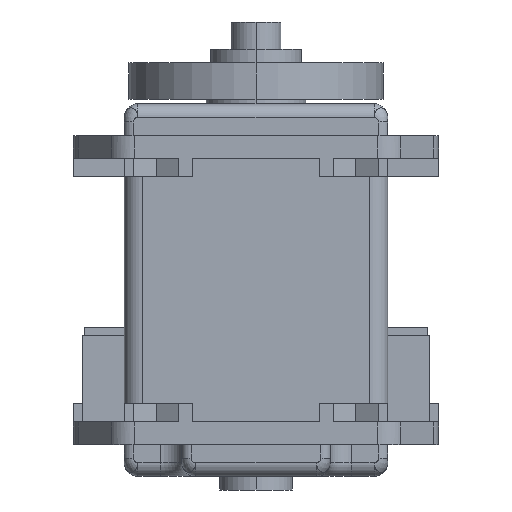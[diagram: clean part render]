
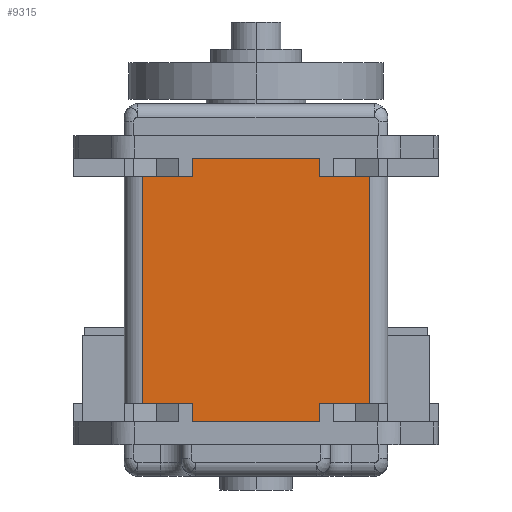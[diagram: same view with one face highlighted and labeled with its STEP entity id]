
A CAD part, front view. The second image highlights one B-rep face of the part: STEP entity #9315.
In plain terms, the highlighted planar face has unit normal (0, -1, 0).
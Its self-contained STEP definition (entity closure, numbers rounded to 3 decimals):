
#2409=DIRECTION('',(1.,0.,0.));
#2410=VECTOR('',#2409,1.4);
#2411=CARTESIAN_POINT('',(11.1,-42.5,-12.5));
#2412=LINE('',#2411,#2410);
#2416=DIRECTION('',(1.,0.,0.));
#2417=VECTOR('',#2416,0.201);
#2418=CARTESIAN_POINT('',(10.9,-42.5,-12.5));
#2419=LINE('',#2418,#2417);
#2423=DIRECTION('',(1.,0.,0.));
#2424=VECTOR('',#2423,3.875);
#2425=CARTESIAN_POINT('',(7.025,-42.5,-12.5));
#2426=LINE('',#2425,#2424);
#2430=DIRECTION('',(0.,0.,1.));
#2431=VECTOR('',#2430,2.);
#2432=CARTESIAN_POINT('',(7.025,-42.5,-14.5));
#2433=LINE('',#2432,#2431);
#2437=DIRECTION('',(1.,0.,0.));
#2438=VECTOR('',#2437,14.05);
#2439=CARTESIAN_POINT('',(-7.025,-42.5,-14.5));
#2440=LINE('',#2439,#2438);
#2444=DIRECTION('',(0.,0.,1.));
#2445=VECTOR('',#2444,2.);
#2446=CARTESIAN_POINT('',(-7.025,-42.5,-14.5));
#2447=LINE('',#2446,#2445);
#2451=DIRECTION('',(1.,0.,0.));
#2452=VECTOR('',#2451,3.875);
#2453=CARTESIAN_POINT('',(-10.9,-42.5,-12.5));
#2454=LINE('',#2453,#2452);
#2458=DIRECTION('',(1.,0.,0.));
#2459=VECTOR('',#2458,0.201);
#2460=CARTESIAN_POINT('',(-11.1,-42.5,-12.5));
#2461=LINE('',#2460,#2459);
#2465=DIRECTION('',(1.,0.,0.));
#2466=VECTOR('',#2465,1.4);
#2467=CARTESIAN_POINT('',(-12.5,-42.5,-12.5));
#2468=LINE('',#2467,#2466);
#2472=DIRECTION('',(1.,0.,0.));
#2473=VECTOR('',#2472,1.4);
#2474=CARTESIAN_POINT('',(-12.5,-42.5,12.5));
#2475=LINE('',#2474,#2473);
#2479=DIRECTION('',(1.,0.,0.));
#2480=VECTOR('',#2479,0.201);
#2481=CARTESIAN_POINT('',(-11.1,-42.5,12.5));
#2482=LINE('',#2481,#2480);
#2486=DIRECTION('',(1.,0.,0.));
#2487=VECTOR('',#2486,3.875);
#2488=CARTESIAN_POINT('',(-10.9,-42.5,12.5));
#2489=LINE('',#2488,#2487);
#2493=DIRECTION('',(0.,0.,-1.));
#2494=VECTOR('',#2493,2.);
#2495=CARTESIAN_POINT('',(-7.025,-42.5,14.5));
#2496=LINE('',#2495,#2494);
#2500=DIRECTION('',(1.,0.,0.));
#2501=VECTOR('',#2500,14.05);
#2502=CARTESIAN_POINT('',(-7.025,-42.5,14.5));
#2503=LINE('',#2502,#2501);
#2507=DIRECTION('',(0.,0.,-1.));
#2508=VECTOR('',#2507,2.);
#2509=CARTESIAN_POINT('',(7.025,-42.5,14.5));
#2510=LINE('',#2509,#2508);
#2514=DIRECTION('',(1.,0.,0.));
#2515=VECTOR('',#2514,3.875);
#2516=CARTESIAN_POINT('',(7.025,-42.5,12.5));
#2517=LINE('',#2516,#2515);
#2521=DIRECTION('',(1.,0.,0.));
#2522=VECTOR('',#2521,0.201);
#2523=CARTESIAN_POINT('',(10.9,-42.5,12.5));
#2524=LINE('',#2523,#2522);
#2528=DIRECTION('',(1.,0.,0.));
#2529=VECTOR('',#2528,1.4);
#2530=CARTESIAN_POINT('',(11.1,-42.5,12.5));
#2531=LINE('',#2530,#2529);
#2581=DIRECTION('',(0.,0.,-1.));
#2582=VECTOR('',#2581,25.);
#2583=CARTESIAN_POINT('',(12.5,-42.5,12.5));
#2584=LINE('',#2583,#2582);
#5662=DIRECTION('',(0.,0.,-1.));
#5663=VECTOR('',#5662,25.);
#5664=CARTESIAN_POINT('',(-12.5,-42.5,12.5));
#5665=LINE('',#5664,#5663);
#6328=CARTESIAN_POINT('',(7.025,-42.5,14.5));
#6329=CARTESIAN_POINT('',(7.025,-42.5,12.5));
#6330=VERTEX_POINT('',#6328);
#6331=VERTEX_POINT('',#6329);
#6332=CARTESIAN_POINT('',(-7.025,-42.5,14.5));
#6333=CARTESIAN_POINT('',(-7.025,-42.5,12.5));
#6334=VERTEX_POINT('',#6332);
#6335=VERTEX_POINT('',#6333);
#6530=CARTESIAN_POINT('',(10.9,-42.5,12.5));
#6531=VERTEX_POINT('',#6530);
#6532=CARTESIAN_POINT('',(11.1,-42.5,12.5));
#6534=VERTEX_POINT('',#6532);
#6554=CARTESIAN_POINT('',(-11.1,-42.5,12.5));
#6555=VERTEX_POINT('',#6554);
#6556=CARTESIAN_POINT('',(-10.9,-42.5,12.5));
#6558=VERTEX_POINT('',#6556);
#6600=CARTESIAN_POINT('',(7.025,-42.5,-14.5));
#6601=CARTESIAN_POINT('',(7.025,-42.5,-12.5));
#6602=VERTEX_POINT('',#6600);
#6603=VERTEX_POINT('',#6601);
#6604=CARTESIAN_POINT('',(-7.025,-42.5,-14.5));
#6605=CARTESIAN_POINT('',(-7.025,-42.5,-12.5));
#6606=VERTEX_POINT('',#6604);
#6607=VERTEX_POINT('',#6605);
#6716=CARTESIAN_POINT('',(-11.1,-42.5,-12.5));
#6717=CARTESIAN_POINT('',(-10.9,-42.5,-12.5));
#6718=VERTEX_POINT('',#6716);
#6719=VERTEX_POINT('',#6717);
#6720=CARTESIAN_POINT('',(10.9,-42.5,-12.5));
#6721=CARTESIAN_POINT('',(11.1,-42.5,-12.5));
#6722=VERTEX_POINT('',#6720);
#6723=VERTEX_POINT('',#6721);
#7032=CARTESIAN_POINT('',(12.5,-42.5,12.5));
#7033=CARTESIAN_POINT('',(12.5,-42.5,-12.5));
#7034=VERTEX_POINT('',#7032);
#7035=VERTEX_POINT('',#7033);
#7044=CARTESIAN_POINT('',(-12.5,-42.5,12.5));
#7045=CARTESIAN_POINT('',(-12.5,-42.5,-12.5));
#7046=VERTEX_POINT('',#7044);
#7047=VERTEX_POINT('',#7045);
#9275=CARTESIAN_POINT('',(-14.5,-42.5,-20.5));
#9276=DIRECTION('',(0.,-1.,0.));
#9277=DIRECTION('',(1.,0.,0.));
#9278=AXIS2_PLACEMENT_3D('',#9275,#9276,#9277);
#9279=PLANE('',#9278);
#9281=ORIENTED_EDGE('',*,*,#9280,.T.);
#9283=ORIENTED_EDGE('',*,*,#9282,.F.);
#9285=ORIENTED_EDGE('',*,*,#9284,.F.);
#9287=ORIENTED_EDGE('',*,*,#9286,.F.);
#9289=ORIENTED_EDGE('',*,*,#9288,.F.);
#9291=ORIENTED_EDGE('',*,*,#9290,.F.);
#9293=ORIENTED_EDGE('',*,*,#9292,.T.);
#9295=ORIENTED_EDGE('',*,*,#9294,.F.);
#9297=ORIENTED_EDGE('',*,*,#9296,.F.);
#9299=ORIENTED_EDGE('',*,*,#9298,.F.);
#9301=ORIENTED_EDGE('',*,*,#9300,.F.);
#9302=ORIENTED_EDGE('',*,*,#8978,.T.);
#9303=ORIENTED_EDGE('',*,*,#9066,.T.);
#9304=ORIENTED_EDGE('',*,*,#8949,.T.);
#9306=ORIENTED_EDGE('',*,*,#9305,.F.);
#9307=ORIENTED_EDGE('',*,*,#8687,.T.);
#9309=ORIENTED_EDGE('',*,*,#9308,.T.);
#9310=ORIENTED_EDGE('',*,*,#8862,.T.);
#9311=ORIENTED_EDGE('',*,*,#9080,.T.);
#9312=ORIENTED_EDGE('',*,*,#8962,.T.);
#9313=EDGE_LOOP('',(#9281,#9283,#9285,#9287,#9289,#9291,#9293,#9295,#9297,#9299,
#9301,#9302,#9303,#9304,#9306,#9307,#9309,#9310,#9311,#9312));
#9314=FACE_OUTER_BOUND('',#9313,.F.);
#9315=ADVANCED_FACE('',(#9314),#9279,.T.);
#8687=EDGE_CURVE('',#6334,#6330,#2503,.T.);
#8862=EDGE_CURVE('',#6331,#6531,#2517,.T.);
#8949=EDGE_CURVE('',#6558,#6335,#2489,.T.);
#8962=EDGE_CURVE('',#6534,#7034,#2531,.T.);
#8978=EDGE_CURVE('',#7046,#6555,#2475,.T.);
#9066=EDGE_CURVE('',#6555,#6558,#2482,.T.);
#9080=EDGE_CURVE('',#6531,#6534,#2524,.T.);
#9280=EDGE_CURVE('',#7034,#7035,#2584,.T.);
#9282=EDGE_CURVE('',#6723,#7035,#2412,.T.);
#9284=EDGE_CURVE('',#6722,#6723,#2419,.T.);
#9286=EDGE_CURVE('',#6603,#6722,#2426,.T.);
#9288=EDGE_CURVE('',#6602,#6603,#2433,.T.);
#9290=EDGE_CURVE('',#6606,#6602,#2440,.T.);
#9292=EDGE_CURVE('',#6606,#6607,#2447,.T.);
#9294=EDGE_CURVE('',#6719,#6607,#2454,.T.);
#9296=EDGE_CURVE('',#6718,#6719,#2461,.T.);
#9298=EDGE_CURVE('',#7047,#6718,#2468,.T.);
#9300=EDGE_CURVE('',#7046,#7047,#5665,.T.);
#9305=EDGE_CURVE('',#6334,#6335,#2496,.T.);
#9308=EDGE_CURVE('',#6330,#6331,#2510,.T.);
